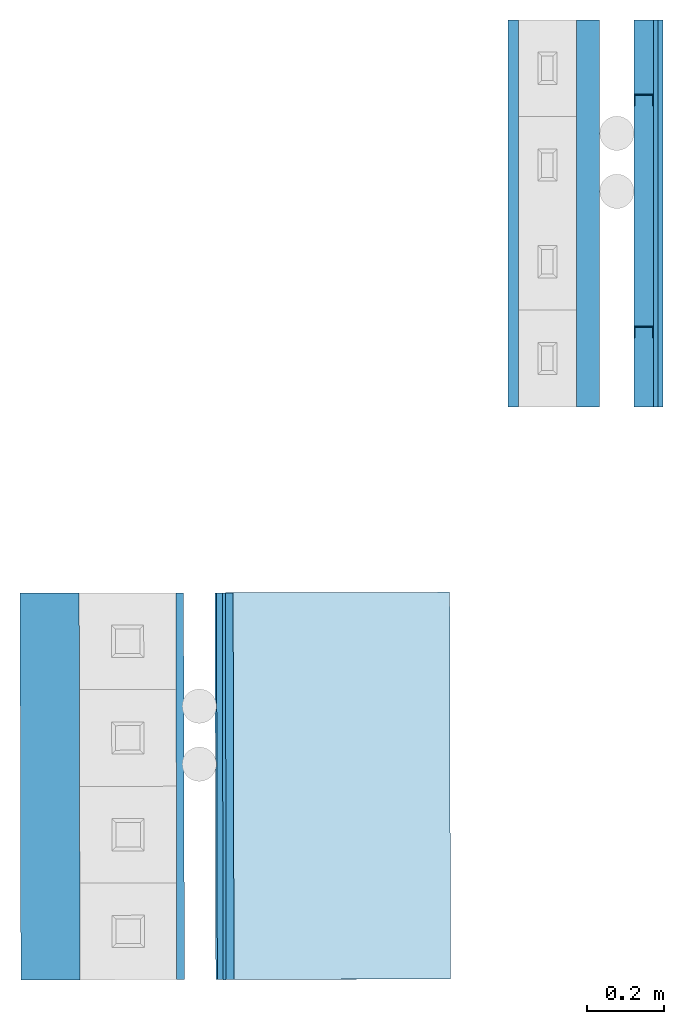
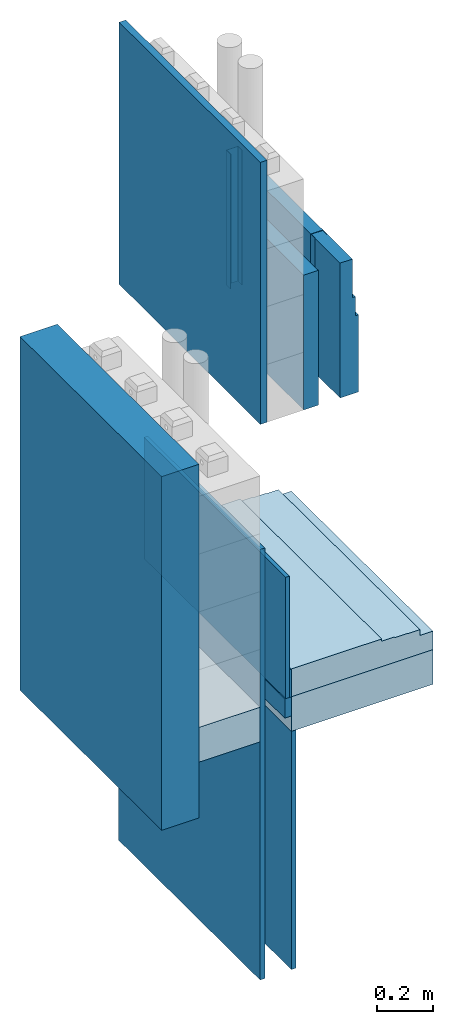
# One storey, part 1 of 2: 10 walls, 2 beams, 2 slabs.
"""IFC4 building model written with IfcOpenShell, lengths in centimetres."""

import ifcopenshell
import ifcopenshell.guid

model = None  # the IFC model being written
_history = None  # IfcOwnerHistory: only IFC2X3 demands one
_inside = {}  # id of a spatial element -> (the spatial element, [elements in it])
_under = {}  # id of a project, library or spatial element -> (it, [spatial elements below it])
_declared = {}  # id of a project -> (the project, [libraries it declares])
_typed = {}  # id of a type object -> (the type object, [elements of that type])
_made_of = {}  # id of a material, layer set ... -> (it, [elements and type objects made of it])


def new_model(schema):
    """Start an empty IFC model of exactly this schema.

    Asked for "IFC4X3", IfcOpenShell would pick the latest addendum, in which some entities
    have other attributes; the version numbers below select the first issue.
    IFC2X3 requires an IfcOwnerHistory on every rooted entity: one is made here for all.
    """
    global model, _history
    if schema == "IFC4X3":
        model = ifcopenshell.file(schema_version=(4, 3, 0, 0))
    else:
        model = ifcopenshell.file(schema=schema)
    _inside.clear()
    _under.clear()
    _declared.clear()
    _typed.clear()
    _made_of.clear()
    _history = None
    if model.schema == "IFC2X3":
        org = make("IfcOrganization", Name="unknown")
        user = make(
            "IfcPersonAndOrganization",
            ThePerson=make("IfcPerson", FamilyName="unknown"),
            TheOrganization=org,
        )
        app = make(
            "IfcApplication",
            ApplicationDeveloper=org,
            Version="unknown",
            ApplicationFullName="unknown",
            ApplicationIdentifier="unknown",
        )
        _history = make(
            "IfcOwnerHistory",
            OwningUser=user,
            OwningApplication=app,
            ChangeAction="ADDED",
            CreationDate=0,
        )
    return model


def make(cls, **values):
    """One entity of the class cls with the attributes given. An attribute that is None is left unset."""
    return model.create_entity(
        cls, **{name: value for name, value in values.items() if value is not None}
    )


def entity(cls, *values):
    """Any entity or typed value of the class cls, its attributes in the order of the schema. None: left unset."""
    e = model.create_entity(cls)
    for i, value in enumerate(values):
        if value is not None:
            e[i] = value
    return e


def rooted(cls, **values):
    """An entity with a GlobalId (a new one), such as an element, a storey or a relation."""
    return make(cls, GlobalId=ifcopenshell.guid.new(), OwnerHistory=_history, **values)


def si_unit(unit_type, name, prefix=None):
    """IfcSIUnit, for example si_unit("LENGTHUNIT", "METRE", prefix="MILLI")."""
    return make("IfcSIUnit", UnitType=unit_type, Prefix=prefix, Name=name)


def converted_unit(unit_type, name, factor, base, dimensions=None, offset=None):
    """IfcConversionBasedUnit, such as the inch: factor (a typed value) times the base unit."""
    return make(
        "IfcConversionBasedUnit"
        if offset is None
        else "IfcConversionBasedUnitWithOffset",
        ConversionOffset=offset,
        Dimensions=None
        if dimensions is None
        else entity("IfcDimensionalExponents", *dimensions),
        UnitType=unit_type,
        Name=name,
        ConversionFactor=make(
            "IfcMeasureWithUnit", ValueComponent=factor, UnitComponent=base
        ),
    )


def assignment(units):
    """IfcUnitAssignment: the units of a project."""
    return None if units is None else make("IfcUnitAssignment", Units=units)


def point(xyz):
    """IfcCartesianPoint."""
    return None if xyz is None else make("IfcCartesianPoint", Coordinates=xyz)


def direction(xyz):
    """IfcDirection."""
    return None if xyz is None else make("IfcDirection", DirectionRatios=xyz)


def frame(location, z_axis=None, x_axis=None):
    """IfcAxis2Placement3D, a coordinate frame: its origin and axes. An axis left out is left unset."""
    return make(
        "IfcAxis2Placement3D",
        Location=point(location),
        Axis=direction(z_axis),
        RefDirection=direction(x_axis),
    )


def origin():
    """The frame at (0, 0, 0) with its axes left unset."""
    return frame((0.0, 0.0, 0.0))


def place(relative_to, where):
    """IfcLocalPlacement: puts the frame where relative to a parent placement (None: the world)."""
    return make(
        "IfcLocalPlacement", PlacementRelTo=relative_to, RelativePlacement=where
    )


def context(
    kind, dimensions, precision=None, world=None, true_north=None, identifier=None
):
    """IfcGeometricRepresentationContext, for example the 3D "Model" context."""
    return make(
        "IfcGeometricRepresentationContext",
        ContextIdentifier=identifier,
        ContextType=kind,
        CoordinateSpaceDimension=dimensions,
        Precision=precision,
        WorldCoordinateSystem=world,
        TrueNorth=true_north,
    )


def subcontext(parent, identifier, kind, view, scale=None):
    """IfcGeometricRepresentationSubContext, for example "Body" below "Model"."""
    return make(
        "IfcGeometricRepresentationSubContext",
        ContextIdentifier=identifier,
        ContextType=kind,
        ParentContext=parent,
        TargetScale=scale,
        TargetView=view,
    )


def project(units=None, contexts=None):
    """IfcProject with its units and contexts."""
    return rooted(
        "IfcProject",
        Name="project",
        RepresentationContexts=contexts,
        UnitsInContext=assignment(units),
    )


def spatial(cls, under=None, at=None, **own):
    """A site, building, storey or space (cls), placed at a placement, below another one or the project."""
    s = rooted(cls, ObjectPlacement=at, **own)
    if under is not None:
        _under.setdefault(under.id(), (under, []))[1].append(s)
    return s


def point_list(points):
    """IfcCartesianPointList2D or 3D."""
    cls = (
        "IfcCartesianPointList2D" if len(points[0]) == 2 else "IfcCartesianPointList3D"
    )
    return make(cls, CoordList=points)


def indexed_curve(points, segments=None, self_intersect=None):
    """IfcIndexedPolyCurve: lines and arcs through numbered points (the first is 1)."""
    return make(
        "IfcIndexedPolyCurve",
        Points=point_list(points),
        Segments=segments,
        SelfIntersect=self_intersect,
    )


def outline(outer, holes=None, kind="AREA"):
    """IfcArbitraryClosedProfileDef: a profile drawn as a closed curve; with holes, ...WithVoids."""
    if holes is None:
        return make("IfcArbitraryClosedProfileDef", ProfileType=kind, OuterCurve=outer)
    return make(
        "IfcArbitraryProfileDefWithVoids",
        ProfileType=kind,
        OuterCurve=outer,
        InnerCurves=holes,
    )


def extrude(swept, where, along, depth):
    """IfcExtrudedAreaSolid: the profile swept, set in the frame where, extruded along a direction by depth."""
    return make(
        "IfcExtrudedAreaSolid",
        SweptArea=swept,
        Position=where,
        ExtrudedDirection=direction(along),
        Depth=depth,
    )


def shape(context_of_items, identifier, shape_type, items):
    """IfcShapeRepresentation: the items that make up one representation, for example the "Body"."""
    return make(
        "IfcShapeRepresentation",
        ContextOfItems=context_of_items,
        RepresentationIdentifier=identifier,
        RepresentationType=shape_type,
        Items=items,
    )


def source(mapping_origin, context_of_items, identifier, shape_type, items):
    """IfcRepresentationMap: a shape defined once, which mapped items show again and again."""
    return make(
        "IfcRepresentationMap",
        MappingOrigin=mapping_origin,
        MappedRepresentation=shape(context_of_items, identifier, shape_type, items),
    )


def transform(
    local_origin,
    x_axis=None,
    y_axis=None,
    z_axis=None,
    scale=None,
    scale2=None,
    scale3=None,
    uniform=True,
):
    """IfcCartesianTransformationOperator3D, or its non-uniform kind. x_axis, y_axis, z_axis: its Axis1, 2, 3."""
    if uniform:
        return make(
            "IfcCartesianTransformationOperator3D",
            Axis1=direction(x_axis),
            Axis2=direction(y_axis),
            LocalOrigin=point(local_origin),
            Scale=scale,
            Axis3=direction(z_axis),
        )
    return make(
        "IfcCartesianTransformationOperator3DnonUniform",
        Axis1=direction(x_axis),
        Axis2=direction(y_axis),
        LocalOrigin=point(local_origin),
        Scale=scale,
        Axis3=direction(z_axis),
        Scale2=scale2,
        Scale3=scale3,
    )


def mapped(mapping_source, mapping_target):
    """IfcMappedItem: shows the shape of a source again, moved by a transform."""
    return make(
        "IfcMappedItem", MappingSource=mapping_source, MappingTarget=mapping_target
    )


def material(Name=None, Category=None):
    """IfcMaterial."""
    return make("IfcMaterial", Name=Name, Category=Category)


def constituent(of_material, Name=None, Category=None, fraction=None):
    """IfcMaterialConstituent: one of the materials an element consists of."""
    return make(
        "IfcMaterialConstituent",
        Name=Name,
        Material=of_material,
        Fraction=fraction,
        Category=Category,
    )


def constituent_set(constituents=None, Name=None):
    """IfcMaterialConstituentSet."""
    return make(
        "IfcMaterialConstituentSet", Name=Name, MaterialConstituents=constituents
    )


def made_of(thing, what):
    """Note that an element or type object is made of a material, layer set ...; save() writes the relation."""
    if what is not None:
        _made_of.setdefault(what.id(), (what, []))[1].append(thing)
    return thing


def type_object(cls, material=None, **own):
    """A type object (cls), such as IfcWallType, which elements share."""
    return made_of(rooted(cls, **own), material)


def type_shapes(of_type, sources):
    """Give a type object the sources (RepresentationMaps) that its elements show as mapped items."""
    of_type.RepresentationMaps = sources


def element(
    cls,
    number,
    at=None,
    inside=None,
    cuts=None,
    type_object=None,
    material=None,
    context=None,
    identifier="Body",
    shape_type=None,
    held_by="IfcProductDefinitionShape",
    body=None,
    shapes=None,
    **own,
):
    """One element of the class cls, such as IfcWall. Its Tag is "e" and its number.

    at: its placement. inside: the storey or other place that contains it. cuts: it is an
    opening in that element (IfcRelVoidsElement). A single representation is given by context,
    identifier, shape_type and body (its items); several are given by shapes. held_by: the class
    of the entity that holds the representations. save() writes the other relations.
    """
    e = rooted(cls, Tag="e%d" % number, ObjectPlacement=at, **own)
    if body is not None:
        shapes = [shape(context, identifier, shape_type, body)]
    if shapes is not None:
        e.Representation = make(held_by, Representations=shapes)
    if inside is not None:
        _inside.setdefault(inside.id(), (inside, []))[1].append(e)
    if cuts is not None:
        rooted(
            "IfcRelVoidsElement", RelatingBuildingElement=cuts, RelatedOpeningElement=e
        )
    if type_object is not None:
        _typed.setdefault(type_object.id(), (type_object, []))[1].append(e)
    return made_of(e, material)


def aggregate(whole, parts):
    """IfcRelAggregates: a whole, such as a stair, and the parts it consists of."""
    return rooted("IfcRelAggregates", RelatingObject=whole, RelatedObjects=parts)


def save(model, path):
    """Write the relations noted so far, then the file.

    IfcRelAggregates (storeys below a building ...), IfcRelContainedInSpatialStructure (elements
    in a storey), IfcRelDefinesByType, IfcRelAssociatesMaterial and IfcRelDeclares: one each for
    every whole, place, type object, material and project.
    """
    for whole, parts in _under.values():
        aggregate(whole, parts)
    for where, things in _inside.values():
        rooted(
            "IfcRelContainedInSpatialStructure",
            RelatedElements=things,
            RelatingStructure=where,
        )
    for kind, things in _typed.values():
        rooted("IfcRelDefinesByType", RelatedObjects=things, RelatingType=kind)
    for what, things in _made_of.values():
        rooted("IfcRelAssociatesMaterial", RelatedObjects=things, RelatingMaterial=what)
    for by, libraries in _declared.values():
        rooted("IfcRelDeclares", RelatingContext=by, RelatedDefinitions=libraries)
    model.write(path)


model = new_model("IFC4")

# Units and contexts
model_context = context("Model", 3, precision=0.001, world=origin(), true_north=direction((0.0, 1.0)))
body_context = subcontext(model_context, "Body", "Model", "MODEL_VIEW")
ifc_project = project(units=[si_unit("LENGTHUNIT", "METRE", prefix="CENTI"), si_unit("AREAUNIT", "SQUARE_METRE"), si_unit("VOLUMEUNIT", "CUBIC_METRE"), converted_unit("PLANEANGLEUNIT", "DEGREE", entity("IfcPlaneAngleMeasure", 0.017453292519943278), si_unit("PLANEANGLEUNIT", "RADIAN"), dimensions=[0, 0, 0, 0, 0, 0, 0])], contexts=[model_context])

# Site, building, storey
site_placement = place(None, origin())
site = spatial("IfcSite", under=ifc_project, at=site_placement, Name="Default", CompositionType="ELEMENT")
building_placement = place(site_placement, origin())
building = spatial("IfcBuilding", under=site, at=building_placement, CompositionType="ELEMENT")
storey_placement = place(building_placement, frame((0.0, 0.0, -12.0)))
storey = spatial("IfcBuildingStorey", under=building, at=storey_placement, Name="L00__ABOVE Slab", CompositionType="ELEMENT", Elevation=-12.000000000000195)

# Beams
ifc_material_1 = material(Name="Metal - Steel - 345 MPa", Category="Unassigned")
beam_type = type_object("IfcBeamType", Name="Structural Framing : Leichter Stahl Trockenbau : C 50 x 30", PredefinedType="BEAM", material=ifc_material_1)
shared_shape = source(origin(), body_context, "Body", "SweptSolid", [
    extrude(outline(indexed_curve([(-2.4999999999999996, -1.5500000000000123), (2.499999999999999, -1.5500000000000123), (2.499999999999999, 1.4500000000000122), (2.3, 1.4500000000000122), (2.3, -1.3500000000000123), (-2.3, -1.350000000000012), (-2.3, 1.4500000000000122), (-2.4999999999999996, 1.4500000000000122), (-2.4999999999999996, -1.5500000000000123)], self_intersect=False)), frame((-33.333333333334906, -1.5500000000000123, 0.0), z_axis=(1.0, 0.0, 0.0), x_axis=(0.0, 0.0, 1.0)), (0.0, 0.0, 1.0), 58.333333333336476),
])
type_shapes(beam_type, [shared_shape])
for number, where, z_axis, x_axis, name in (
    (1, (2450.539456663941, 1436.1718731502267, 35.0), (1.0, 0.0, 0.0), (0.0, 0.0, -1.0), "Structural Framing : Leichter Stahl Trockenbau : C 50 x 30"),
    (2, (2450.5394566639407, 1376.1718731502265, 35.0), (1.0, 0.0, 0.0), (0.0, 0.0, -1.0), "Structural Framing : Leichter Stahl Trockenbau : C 50 x 30"),
):
    element("IfcBeam", number, at=place(storey_placement, frame(where, z_axis=z_axis, x_axis=x_axis)), inside=storey, type_object=beam_type, material=ifc_material_1, Name=name, PredefinedType="BEAM", context=body_context, shape_type="MappedRepresentation", body=[
        mapped(shared_shape, transform((0.0, 0.0, 0.0), scale=1.0)),
    ])

# Slabs
ifc_material_2 = material(Name="_STRUCTURE__Wood")
slab_type_1 = type_object("IfcSlabType", Name="Floors : Floor : flr__STRUCTURE__Wood Beams 15cm__TriqBriq", PredefinedType="FLOOR", material=ifc_material_2)
slab_1_placement = place(storey_placement, origin())
element("IfcSlab", 3, at=slab_1_placement, inside=storey, type_object=slab_type_1, material=ifc_material_2, Name="Floors : Floor : flr__STRUCTURE__Wood Beams 15cm__TriqBriq", PredefinedType="FLOOR", context=body_context, shape_type="SweptSolid", body=[
    extrude(outline(indexed_curve([(-50.00000000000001, -12.500000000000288), (50.000000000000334, -12.500000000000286), (49.999999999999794, 12.500000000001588), (-50.00000000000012, 12.499999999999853), (-50.00000000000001, -12.500000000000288)], self_intersect=False)), frame((2317.1963767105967, 1257.2447526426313, -7.5), z_axis=(0.0, 0.0, 1.0), x_axis=(0.0022114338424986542, -0.9999975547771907, 0.0)), (0.0, 0.0, 1.0), 14.999999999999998),
    extrude(outline(indexed_curve([(-29.000009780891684, -50.000000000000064), (29.000009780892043, -50.00000000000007), (29.000009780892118, 50.000000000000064), (-29.000009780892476, 50.00000000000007), (-29.000009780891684, -50.000000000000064)], self_intersect=False)), frame((2371.496224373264, 1257.3648334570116, -7.5), z_axis=(0.0, 0.0, 1.0), x_axis=(-0.9999975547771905, -0.0022114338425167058, 0.0)), (0.0, 0.0, 1.0), 15.000000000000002),
])
ifc_material_3 = material(Name="_FLR COVERING__Terrazzo Tiles, R10", Category="Ceramic")
ifc_constituent_1 = constituent(ifc_material_3, Name="_FLR COVERING__Terrazzo Tiles, R10", Category="Ceramic", fraction=0.08333333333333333)
ifc_material_4 = material(Name="_FLR COVERING__Adhesive-fixed Terrazzo Flooring__CEM C2 S1/S2", Category="Concrete")
ifc_constituent_2 = constituent(ifc_material_4, Name="_FLR COVERING__Adhesive-fixed Terrazzo Flooring__CEM C2 S1/S2", Category="Concrete", fraction=0.024999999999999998)
ifc_material_5 = material(Name="_FLR LAYERS__WP Membrane__Syntetic Resin__Mapegum WPS", Category="Gas")
ifc_constituent_3 = constituent(ifc_material_5, Name="_FLR LAYERS__WP Membrane__Syntetic Resin__Mapegum WPS", Category="Gas", fraction=0.016666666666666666)
ifc_material_6 = material(Name="_FLR LAYERS__Screed, SL 0.5%__Semi-dry CEM, Rc ≥ 22.5 N/mm²", Category="Concrete")
ifc_constituent_4 = constituent(ifc_material_6, Name="_FLR LAYERS__Screed, SL 0.5%__Semi-dry CEM, Rc ≥ 22.5 N/mm²", Category="Concrete", fraction=0.20833333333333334)
ifc_material_7 = material(Name="_FLR LAYERS__Insulation__EPS 120__Austrotherm EPS A120")
ifc_constituent_5 = constituent(ifc_material_7, Name="_FLR LAYERS__Insulation__EPS 120__Austrotherm EPS A120", fraction=0.625)
ifc_material_8 = material(Name="_FCD VENT LAYERS__Support Board__OSB 3", Category="Ceramic")
ifc_constituent_6 = constituent(ifc_material_8, Name="_FCD VENT LAYERS__Support Board__OSB 3", Category="Ceramic", fraction=0.041666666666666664)
ifc_constituent_set_1 = constituent_set(constituents=[ifc_constituent_1, ifc_constituent_2, ifc_constituent_3, ifc_constituent_4, ifc_constituent_5, ifc_constituent_6], Name="Floor:flr__INT COVERING__Terrazzo Flooring, WP, Floating CEM Screed, EPS A120 9cm TRIQBRIQ")
slab_type_2 = type_object("IfcSlabType", Name="Floors : Floor : flr__INT COVERING__Terrazzo Flooring, WP, Floating CEM Screed, EPS A120 9cm TRIQBRIQ", PredefinedType="FLOOR", material=ifc_constituent_set_1)
slab_2_placement = place(storey_placement, origin())
element("IfcSlab", 4, at=slab_2_placement, inside=storey, type_object=slab_type_2, material=ifc_constituent_set_1, Name="Floors : Floor : flr__INT COVERING__Terrazzo Flooring, WP, Floating CEM Screed, EPS A120 9cm TRIQBRIQ", PredefinedType="FLOOR", context=body_context, shape_type="SweptSolid", body=[
    extrude(outline(indexed_curve([(-18.500009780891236, -49.99999999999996), (18.500009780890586, -49.999999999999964), (18.500009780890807, 49.99999999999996), (-18.50000978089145, 50.00000000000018), (-18.500009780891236, -49.99999999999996)], self_intersect=False)), frame((2360.9962696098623, 1257.3327676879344, 18.5), z_axis=(0.0, 0.0, 1.0), x_axis=(-0.9999975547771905, -0.002211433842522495, 0.0)), (0.0, 0.0, 1.0), 1.0000000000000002),
    extrude(outline(indexed_curve([(-21.125009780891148, -50.00000000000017), (21.12500978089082, -49.99999999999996), (21.125009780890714, 49.99999999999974), (-21.125009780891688, 49.99999999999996), (-21.125009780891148, -50.00000000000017)], self_intersect=False)), frame((2363.621263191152, 1257.3385727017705, 18.2), z_axis=(0.0, 0.0, 1.0), x_axis=(-0.9999975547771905, -0.0022114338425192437, 0.0)), (0.0, 0.0, 1.0), 0.3000000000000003),
    extrude(outline(indexed_curve([(-23.750009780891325, -50.000000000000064), (23.7500097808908, -50.000000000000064), (23.750009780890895, 49.999999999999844), (-23.750009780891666, 50.000000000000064), (-23.750009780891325, -50.000000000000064)], self_intersect=False)), frame((2366.2462567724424, 1257.3443777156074, 18.0), z_axis=(0.0, 0.0, 1.0), x_axis=(-0.9999975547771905, -0.0022114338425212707, 0.0)), (0.0, 0.0, 1.0), 0.19999999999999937),
    extrude(outline(indexed_curve([(-26.375009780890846, -50.000000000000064), (26.375009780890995, -50.000000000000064), (26.375009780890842, 49.999999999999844), (-26.37500978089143, 50.000000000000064), (-26.375009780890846, -50.000000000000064)], self_intersect=False)), frame((2368.8712503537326, 1257.350182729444, 15.500000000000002), z_axis=(0.0, 0.0, 1.0), x_axis=(-0.9999975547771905, -0.002211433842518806, 0.0)), (0.0, 0.0, 1.0), 2.5),
    extrude(outline(indexed_curve([(-29.00000978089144, -49.99999999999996), (29.000009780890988, -49.999999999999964), (29.000009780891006, 49.99999999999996), (-29.00000978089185, 49.999999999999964), (-29.00000978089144, -49.99999999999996)], self_intersect=False)), frame((2371.496243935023, 1257.3559877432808, 8.0), z_axis=(0.0, 0.0, 1.0), x_axis=(-0.9999975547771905, -0.0022114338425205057, 0.0)), (0.0, 0.0, 1.0), 7.500000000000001),
    extrude(outline(indexed_curve([(-29.000009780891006, -50.00000000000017), (29.000009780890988, -50.00000000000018), (29.000009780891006, 49.99999999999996), (-29.000009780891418, 49.999999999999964), (-29.000009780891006, -50.00000000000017)], self_intersect=False)), frame((2371.496243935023, 1257.3559877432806, 7.5), z_axis=(0.0, 0.0, 1.0), x_axis=(-0.9999975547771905, -0.0022114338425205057, 0.0)), (0.0, 0.0, 1.0), 0.49999999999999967),
])

# Walls
ifc_material_9 = material(Name="_WLL & CLG FINISHES__Ceramic Tiles", Category="Ceramic")
ifc_constituent_7 = constituent(ifc_material_9, Name="_WLL & CLG FINISHES__Ceramic Tiles", Category="Ceramic", fraction=0.2545454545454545)
ifc_material_10 = material(Name="_WLL & CLG FINISHES__Adhesive-fixed Ceramic Tiling__CEM C2 S1/S2", Category="Concrete")
ifc_constituent_8 = constituent(ifc_material_10, Name="_WLL & CLG FINISHES__Adhesive-fixed Ceramic Tiling__CEM C2 S1/S2", Category="Concrete", fraction=0.29090909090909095)
ifc_material_11 = material(Name="_PB__GB__Standard__Type A", Category="Generic")
ifc_constituent_9 = constituent(ifc_material_11, Name="_PB__GB__Standard__Type A", Category="Generic", fraction=0.45454545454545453)
ifc_constituent_set_2 = constituent_set(constituents=[ifc_constituent_7, ifc_constituent_8, ifc_constituent_9], Name="Basic Wall:wll__INT TILING__Ceramic Tiling 2.75cm")
wall_type_1 = type_object("IfcWallType", Name="Walls : Basic Wall : wll__INT TILING__Ceramic Tiling 2.75cm", PredefinedType="STANDARD", material=ifc_constituent_set_2)
wall_1_placement = place(storey_placement, frame((2416.7744566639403, 1455.371873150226, 10.0), z_axis=(0.0, 0.0, 1.0), x_axis=(0.0, -1.0, 0.0)))
element("IfcWall", 5, at=wall_1_placement, inside=storey, type_object=wall_type_1, material=ifc_constituent_set_2, Name="Walls : Basic Wall : wll__INT TILING__Ceramic Tiling 2.75cm", PredefinedType="NOTDEFINED", context=body_context, shape_type="SweptSolid", body=[
    extrude(outline(indexed_curve([(-0.6250000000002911, -50.000000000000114), (0.6249999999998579, -50.000000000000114), (0.6249999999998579, 50.000000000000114), (-0.6250000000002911, 50.000000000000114), (-0.6250000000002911, -50.000000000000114)], self_intersect=False)), frame((50.0, 0.7499999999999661, 0.0), z_axis=(0.0, 0.0, 1.0), x_axis=(0.0, -1.0, 0.0)), (0.0, 0.0, 1.0), 113.30894140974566),
    extrude(outline(indexed_curve([(-49.99999999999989, -0.39999999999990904), (50.00000000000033, -0.39999999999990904), (50.00000000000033, 0.39999999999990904), (-49.99999999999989, 0.39999999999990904), (-49.99999999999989, -0.39999999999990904)], self_intersect=False)), frame((50.0, -0.27499999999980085, 0.0)), (0.0, 0.0, 1.0), 113.30894140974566),
    extrude(outline(indexed_curve([(-0.34999999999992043, -50.00000000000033), (0.34999999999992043, -50.00000000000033), (0.34999999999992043, 49.99999999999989), (-0.34999999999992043, 49.99999999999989), (-0.34999999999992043, -50.00000000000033)], self_intersect=False)), frame((50.0, -1.0249999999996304, 0.0), z_axis=(0.0, 0.0, 1.0), x_axis=(0.0, 1.0, 0.0)), (0.0, 0.0, 1.0), 113.30894140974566),
])
ifc_material_12 = material(Name="_PB STUDS & ANC__MTL Studs__50mm__CW 50@60 / GW50")
wall_type_2 = type_object("IfcWallType", Name="Walls : Basic Wall : wll__INT SHAFT__GB, Indep 7.5cm__12.5(H2+A) + CW50@60 / GW50 2", PredefinedType="STANDARD")
wall_2_placement = place(storey_placement, frame((2436.149456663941, 1455.371873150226, 10.0), z_axis=(0.0, 0.0, 1.0), x_axis=(0.0, -1.0, 0.0)))
element("IfcWall", 6, at=wall_2_placement, inside=storey, type_object=wall_type_2, material=ifc_material_12, Name="Walls : Basic Wall : wll__INT SHAFT__GB, Indep 7.5cm__12.5(H2+A) + CW50@60 / GW50 2", PredefinedType="NOTDEFINED", context=body_context, shape_type="SweptSolid", body=[
    extrude(outline(indexed_curve([(100.00000000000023, 3.0000000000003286), (-4.331468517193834e-15, 3.0000000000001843), (4.331468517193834e-15, -3.0000000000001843), (100.00000000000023, -3.00000000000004), (100.00000000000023, 3.0000000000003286)], self_intersect=False)), origin(), (0.0, 0.0, 1.0), 58.333333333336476),
])
ifc_material_13 = material(Name="_PB__GB__Moisture Resistant__Type H2", Category="Generic")
ifc_constituent_10 = constituent(ifc_material_13, Name="_PB__GB__Moisture Resistant__Type H2", Category="Generic", fraction=0.16666666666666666)
ifc_constituent_11 = constituent(ifc_material_11, Name="_PB__GB__Standard__Type A", Category="Generic", fraction=0.16666666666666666)
ifc_constituent_12 = constituent(ifc_material_12, Name="_PB STUDS & ANC__MTL Studs__50mm__CW 50@60 / GW50", fraction=0.6666666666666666)
ifc_constituent_set_3 = constituent_set(constituents=[ifc_constituent_10, ifc_constituent_11, ifc_constituent_12], Name="Basic Wall:wll__INT SHAFT__GB, Indep 7.5cm__12.5(H2+A) + CW50@60 / GW50")
wall_type_3 = type_object("IfcWallType", Name="Walls : Basic Wall : wll__INT SHAFT__GB, Indep 7.5cm__12.5(H2+A) + CW50@60 / GW50", PredefinedType="STANDARD", material=ifc_constituent_set_3)
wall_3_placement = place(storey_placement, frame((2451.7894566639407, 1455.371873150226, 10.0), z_axis=(0.0, 0.0, 1.0), x_axis=(0.0, -1.0, 0.0)))
element("IfcWall", 7, at=wall_3_placement, inside=storey, type_object=wall_type_3, material=ifc_constituent_set_3, Name="Walls : Basic Wall : wll__INT SHAFT__GB, Indep 7.5cm__12.5(H2+A) + CW50@60 / GW50", PredefinedType="NOTDEFINED", context=body_context, shape_type="SweptSolid", body=[
    extrude(outline(indexed_curve([(-2.500000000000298, -50.00000000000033), (2.4999999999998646, -50.00000000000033), (2.4999999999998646, 49.99999999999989), (-2.500000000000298, 49.99999999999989), (-2.500000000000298, -50.00000000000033)], self_intersect=False)), frame((50.0, -1.2499999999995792, 0.0), z_axis=(0.0, 0.0, 1.0), x_axis=(0.0, 1.0, 0.0)), (0.0, 0.0, 1.0), 58.333333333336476),
    extrude(outline(indexed_curve([(-49.99999999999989, -0.6249999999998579), (50.00000000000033, -0.6249999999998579), (50.00000000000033, 0.6249999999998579), (-49.99999999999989, 0.6249999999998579), (-49.99999999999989, -0.6249999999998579)], self_intersect=False)), frame((50.0, 1.8750000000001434, 0.0)), (0.0, 0.0, 1.0), 41.666666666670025),
    extrude(outline(indexed_curve([(-0.6250000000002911, -50.000000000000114), (0.6249999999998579, -50.000000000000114), (0.6249999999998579, 50.000000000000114), (-0.6250000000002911, 50.000000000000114), (-0.6250000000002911, -50.000000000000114)], self_intersect=False)), frame((50.0, 3.1249999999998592, 0.0), z_axis=(0.0, 0.0, 1.0), x_axis=(0.0, -1.0, 0.0)), (0.0, 0.0, 1.0), 33.33333333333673),
])
ifc_material_14 = material(Name="_WLL & CLG FINISHES__Lime - CEM Plaster", Category="Unassigned")
ifc_constituent_13 = constituent(ifc_material_14, Name="_WLL & CLG FINISHES__Lime - CEM Plaster", Category="Unassigned", fraction=1.0)
ifc_constituent_set_4 = constituent_set(constituents=[ifc_constituent_13], Name="Basic Wall:wll__INT FINISH__Lime - CEM Plaster 2cm")
wall_type_4 = type_object("IfcWallType", Name="Walls : Basic Wall : wll__INT FINISH__Lime - CEM Plaster 2cm", PredefinedType="STANDARD", material=ifc_constituent_set_4)
wall_4_placement = place(storey_placement, frame((2330.585772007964, 1307.274484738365, -110.49999999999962), z_axis=(0.0, 0.0, 1.0), x_axis=(0.002211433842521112, -0.9999975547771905, 0.0)))
element("IfcWall", 8, at=wall_4_placement, inside=storey, type_object=wall_type_4, material=ifc_constituent_set_4, Name="Walls : Basic Wall : wll__INT FINISH__Lime - CEM Plaster 2cm", PredefinedType="NOTDEFINED", context=body_context, shape_type="SweptSolid", body=[
    extrude(outline(indexed_curve([(100.00000000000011, 1.000000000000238), (-1.6788439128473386e-14, 0.9999999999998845), (1.6788439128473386e-14, -0.9999999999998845), (100.00000000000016, -0.9999999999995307), (100.00000000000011, 1.000000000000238)], self_intersect=False)), origin(), (0.0, 0.0, 1.0), 186.1420799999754),
])
wall_5_placement = place(storey_placement, frame((2343.3857666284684, 1307.2778018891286, -110.49999999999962), z_axis=(0.0, 0.0, 1.0), x_axis=(0.002211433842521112, -0.9999975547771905, 0.0)))
element("IfcWall", 9, at=wall_5_placement, inside=storey, type_object=wall_type_4, material=ifc_constituent_set_4, Name="Walls : Basic Wall : wll__INT FINISH__Lime - CEM Plaster 2cm", PredefinedType="NOTDEFINED", context=body_context, shape_type="SweptSolid", body=[
    extrude(outline(indexed_curve([(100.00000000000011, 1.000000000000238), (-1.6788439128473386e-14, 0.9999999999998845), (1.6788439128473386e-14, -0.9999999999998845), (100.00000000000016, -0.9999999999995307), (100.00000000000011, 1.000000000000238)], self_intersect=False)), origin(), (0.0, 0.0, 1.0), 102.99999999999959),
])
ifc_material_15 = material(Name="_FCD FINISH__Mineral Render__Combed, H L/O__Capatect Kreativeffekt \"Filigrano\"__White", Category="Concrete")
ifc_constituent_14 = constituent(ifc_material_15, Name="_FCD FINISH__Mineral Render__Combed, H L/O__Capatect Kreativeffekt \"Filigrano\"__White", Category="Concrete", fraction=0.0196078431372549)
ifc_material_16 = material(Name="_STRUCTURE__Wood Solid")
ifc_constituent_15 = constituent(ifc_material_16, Name="_STRUCTURE__Wood Solid", fraction=0.06535947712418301)
ifc_material_17 = material(Name="_FCD LAYERS__Insulation__Wood-fiber__Steico", Category="Unassigned")
ifc_constituent_16 = constituent(ifc_material_17, Name="_FCD LAYERS__Insulation__Wood-fiber__Steico", Category="Unassigned", fraction=0.9150326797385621)
ifc_constituent_set_5 = constituent_set(constituents=[ifc_constituent_14, ifc_constituent_15, ifc_constituent_16], Name="Basic Wall:wll__EXT ENCLOSURE__Spritzkork, Wood Insulation 8.4cm__TriqBriq, FS.1")
wall_type_5 = type_object("IfcWallType", Name="Walls : Basic Wall : wll__EXT ENCLOSURE__Spritzkork, Wood Insulation 8.4cm__TriqBriq, FS.1", PredefinedType="STANDARD", material=ifc_constituent_set_5)
wall_6_placement = place(storey_placement, frame((2296.935854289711, 1307.2000699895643, -31.587428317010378), z_axis=(0.0, 0.0, 1.0), x_axis=(0.002211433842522, -0.9999975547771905, 0.0)))
element("IfcWall", 10, at=wall_6_placement, inside=storey, type_object=wall_type_5, material=ifc_constituent_set_5, Name="Walls : Basic Wall : wll__EXT ENCLOSURE__Spritzkork, Wood Insulation 8.4cm__TriqBriq, FS.1", PredefinedType="NOTDEFINED", context=body_context, shape_type="SweptSolid", body=[
    extrude(outline(indexed_curve([(-50.00000000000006, -0.4999999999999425), (50.00000000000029, -0.4999999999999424), (50.00000000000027, 0.49999999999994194), (-50.00000000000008, 0.49999999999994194), (-50.00000000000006, -0.4999999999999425)], self_intersect=False)), frame((50.0, -6.849999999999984, 0.0)), (0.0, 0.0, 1.0), 152.93296338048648),
    extrude(outline(indexed_curve([(-6.999999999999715, -49.99999999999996), (7.000000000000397, -50.00000000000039), (7.000000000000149, 50.00000000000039), (-6.999999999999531, 50.00000000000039), (-6.999999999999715, -49.99999999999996)], self_intersect=False)), frame((50.0, 0.6500000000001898, 0.0), z_axis=(0.0, 0.0, 1.0), x_axis=(0.0, -1.0, 0.0)), (0.0, 0.0, 1.0), 152.93296338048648),
    extrude(outline(indexed_curve([(-0.14999999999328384, -50.00000000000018), (0.15000000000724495, -49.999999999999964), (0.149999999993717, 50.00000000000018), (-0.15000000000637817, 50.00000000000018), (-0.14999999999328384, -50.00000000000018)], self_intersect=False)), frame((50.0, -7.5000000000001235, 0.0), z_axis=(0.0, 0.0, 1.0), x_axis=(0.0, 1.0, 0.0)), (0.0, 0.0, 1.0), 152.93296338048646),
])
ifc_material_18 = material(Name="_FCD LAYERS__Insulation__EPS 120__Austrotherm EPS A120")
ifc_constituent_17 = constituent(ifc_material_18, Name="_FCD LAYERS__Insulation__EPS 120__Austrotherm EPS A120", fraction=1.0)
ifc_constituent_set_6 = constituent_set(constituents=[ifc_constituent_17], Name="Basic Wall:wll__UNCLASSIFIED__Randdämmstreifen 1.5cm")
wall_type_6 = type_object("IfcWallType", Name="Walls : Basic Wall : wll__UNCLASSIFIED__Randdämmstreifen 1.5cm", PredefinedType="STANDARD", material=ifc_constituent_set_6)
wall_7_placement = place(storey_placement, frame((2341.985773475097, 1307.2731578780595, 7.500000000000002), z_axis=(0.0, 0.0, 1.0), x_axis=(0.002211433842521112, -0.9999975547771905, 0.0)))
element("IfcWall", 11, at=wall_7_placement, inside=storey, type_object=wall_type_6, material=ifc_constituent_set_6, Name="Walls : Basic Wall : wll__UNCLASSIFIED__Randdämmstreifen 1.5cm", PredefinedType="NOTDEFINED", context=body_context, shape_type="SweptSolid", body=[
    extrude(outline(indexed_curve([(100.10000000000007, 0.4000000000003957), (-9.296140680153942e-14, 0.40000000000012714), (9.296140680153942e-14, -0.40000000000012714), (100.10000000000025, -0.39999999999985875), (100.10000000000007, 0.4000000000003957)], self_intersect=False)), origin(), (0.0, 0.0, 1.0), 12.0),
])
ifc_constituent_18 = constituent(ifc_material_9, Name="_WLL & CLG FINISHES__Ceramic Tiles", Category="Ceramic", fraction=0.4666666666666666)
ifc_constituent_19 = constituent(ifc_material_10, Name="_WLL & CLG FINISHES__Adhesive-fixed Ceramic Tiling__CEM C2 S1/S2", Category="Concrete", fraction=0.5333333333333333)
ifc_constituent_set_7 = constituent_set(constituents=[ifc_constituent_18, ifc_constituent_19], Name="Basic Wall:wll__UNCLASSIFIED__Ceramic Tiling 1.5cm__SmartCube")
wall_type_7 = type_object("IfcWallType", Name="Walls : Basic Wall : wll__UNCLASSIFIED__Ceramic Tiling 1.5cm__SmartCube", PredefinedType="STANDARD", material=ifc_constituent_set_7)
wall_8_placement = place(storey_placement, frame((2340.835766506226, 1307.2750375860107, 7.5), z_axis=(0.0, 0.0, 1.0), x_axis=(0.0022114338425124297, -0.9999975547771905, 0.0)))
element("IfcWall", 12, at=wall_8_placement, inside=storey, type_object=wall_type_7, material=ifc_constituent_set_7, Name="Walls : Basic Wall : wll__UNCLASSIFIED__Ceramic Tiling 1.5cm__SmartCube", PredefinedType="NOTDEFINED", context=body_context, shape_type="SweptSolid", body=[
    extrude(outline(indexed_curve([(-0.3999999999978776, -49.999999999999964), (0.4000000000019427, -50.00000000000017), (0.3999999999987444, 50.00000000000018), (-0.40000000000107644, 50.00000000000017), (-0.3999999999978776, -49.999999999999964)], self_intersect=False)), frame((50.0, -0.350000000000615, 0.0), z_axis=(0.0, 0.0, 1.0), x_axis=(0.0, 1.0, 0.0)), (0.0, 0.0, 1.0), 52.500000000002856),
    extrude(outline(indexed_curve([(-0.35000000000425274, -49.99999999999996), (0.34999999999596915, -50.00000000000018), (0.35000000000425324, 50.00000000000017), (-0.34999999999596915, 50.00000000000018), (-0.35000000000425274, -49.99999999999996)], self_intersect=False)), frame((50.0, 0.399999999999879, 0.0), z_axis=(0.0, 0.0, 1.0), x_axis=(0.0, -1.0, 0.0)), (0.0, 0.0, 1.0), 52.50000000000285),
])
wall_9_placement = place(storey_placement, frame((2341.0569098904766, 1207.2752821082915, 7.5), z_axis=(0.0, 0.0, 1.0), x_axis=(-0.0022114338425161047, 0.9999975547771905, 0.0)))
element("IfcWall", 13, at=wall_9_placement, inside=storey, type_object=wall_type_7, material=ifc_constituent_set_7, Name="Walls : Basic Wall : wll__UNCLASSIFIED__Ceramic Tiling 1.5cm__SmartCube", PredefinedType="NOTDEFINED", context=body_context, shape_type="SweptSolid", body=[
    extrude(outline(indexed_curve([(-0.3999999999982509, -49.999999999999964), (0.4000000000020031, -49.99999999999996), (0.39999999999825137, 50.00000000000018), (-0.4000000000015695, 50.00000000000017), (-0.3999999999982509, -49.999999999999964)], self_intersect=False)), frame((50.0, -0.34999999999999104, 0.0), z_axis=(0.0, 0.0, 1.0), x_axis=(0.0, 1.0, 0.0)), (0.0, 0.0, 1.0), 52.500000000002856),
    extrude(outline(indexed_curve([(-0.35000000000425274, -49.99999999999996), (0.3499999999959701, -49.999999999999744), (0.35000000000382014, 50.00000000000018), (-0.34999999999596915, 50.00000000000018), (-0.35000000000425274, -49.99999999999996)], self_intersect=False)), frame((50.0, 0.40000000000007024, 0.0), z_axis=(0.0, 0.0, 1.0), x_axis=(0.0, -1.0, 0.0)), (0.0, 0.0, 1.0), 52.50000000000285),
])
ifc_material_19 = material(Name="_FCD VENT LAYERS__Support Board__3-Layered Wood Board", Category="Ceramic")
wall_type_8 = type_object("IfcWallType", Name="Walls : Basic Wall : wll__INT PARTITION__3-Ply Wood 2.7cm__TriqBriq, CI.1", PredefinedType="STANDARD")
wall_10_placement = place(storey_placement, frame((2341.2569094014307, 1207.2757243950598, -0.7907683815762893), z_axis=(0.0, 0.0, 1.0), x_axis=(-0.0022114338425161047, 0.9999975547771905, 0.0)))
element("IfcWall", 14, at=wall_10_placement, inside=storey, type_object=wall_type_8, material=ifc_material_19, Name="Walls : Basic Wall : wll__INT PARTITION__3-Ply Wood 2.7cm__TriqBriq, CI.1", PredefinedType="NOTDEFINED", context=body_context, shape_type="SweptSolid", body=[
    extrude(outline(indexed_curve([(100.00000000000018, 1.3500000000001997), (5.801929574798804e-14, 1.350000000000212), (-5.801929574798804e-14, -1.350000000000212), (100.00000000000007, -1.350000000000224), (100.00000000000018, 1.3500000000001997)], self_intersect=False)), origin(), (0.0, 0.0, 1.0), 8.29076838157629),
])

save(model, "model.ifc")
